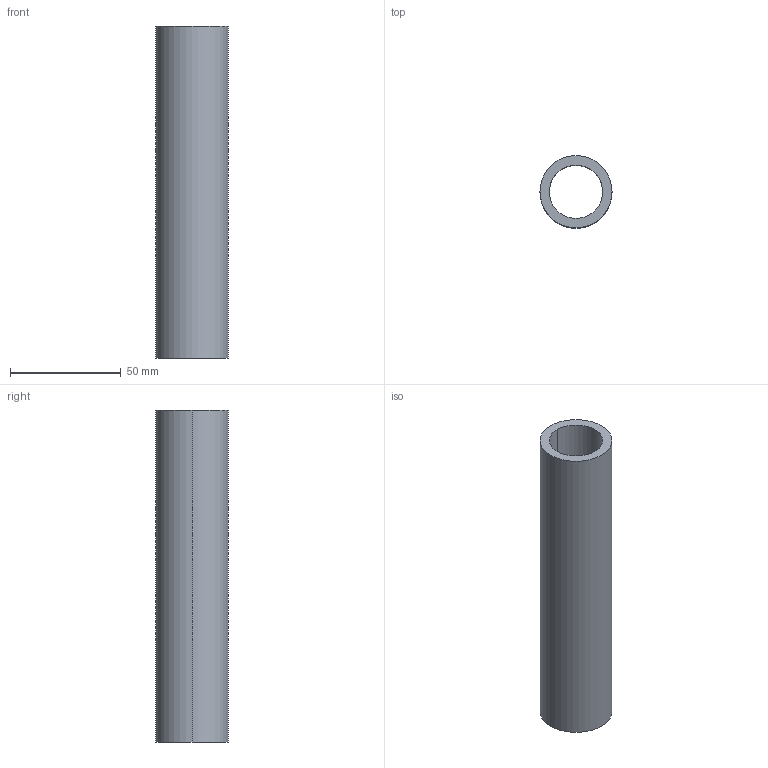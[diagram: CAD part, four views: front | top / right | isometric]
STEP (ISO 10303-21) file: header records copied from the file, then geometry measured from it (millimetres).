
FILE_DESCRIPTION (( 'STEP AP203' ), '1' );
FILE_NAME ('19-0408-55_outokumpu.step', '2015-08-11T09:40:47', ( '' ), ( '' ), 'SwSTEP 2.0', 'SolidWorks 2008', '' );
FILE_SCHEMA (( 'CONFIG_CONTROL_DESIGN' ));
Length unit declared in the file: millimetre
Products named in the file (1): 19-0408-55_outokumpu
Bounding box: 32.6 x 32.6 x 150 mm (x, y, z)
Volume: 55146.6 mm3; surface area: 27534.4 mm2
Topology: 1 solids, 1 shells, 12 faces, 26 edges, 16 vertices
Faces by surface type: cylinder 6, cone 4, plane 2
Entity records: 415 total; most frequent: DIRECTION 68, CARTESIAN_POINT 55, ORIENTED_EDGE 52, AXIS2_PLACEMENT_3D 29, EDGE_CURVE 26, CIRCLE 16, VERTEX_POINT 16, EDGE_LOOP 14
